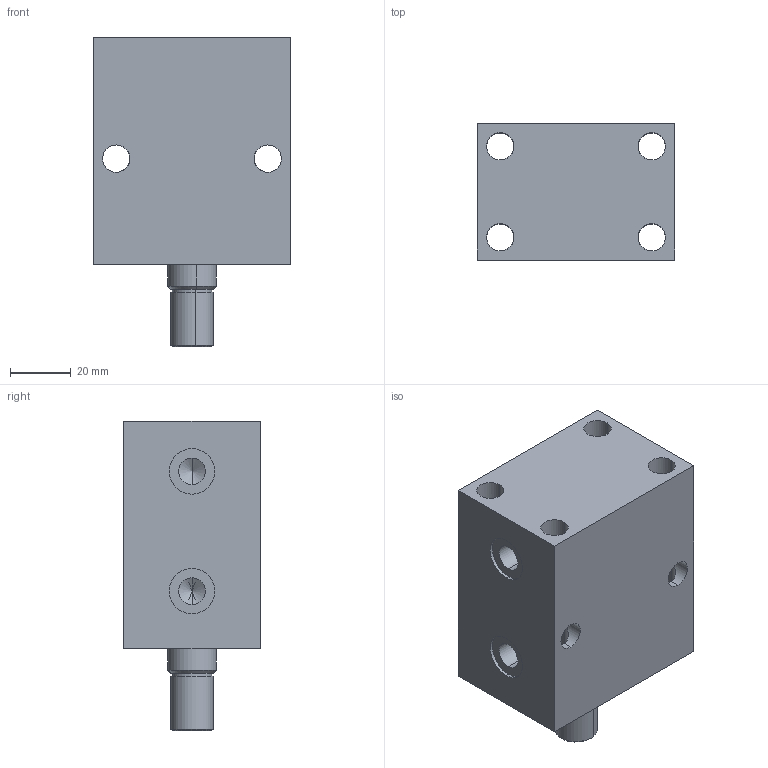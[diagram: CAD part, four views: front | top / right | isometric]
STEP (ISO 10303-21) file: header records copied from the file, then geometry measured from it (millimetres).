
FILE_DESCRIPTION (( 'STEP AP203' ), '1' );
FILE_NAME ('block cylinder B01C-125M.STEP', '2022-07-09T17:56:41', ( '' ), ( '' ), 'SwSTEP 2.0', 'SolidWorks 2017', '' );
FILE_SCHEMA (( 'CONFIG_CONTROL_DESIGN' ));
Length unit declared in the file: millimetre
Products named in the file (3): block cylinder B01C-125M; Body_125M; Piston_125M
Assembly tree (2 placements, depth 2):
  block cylinder B01C-125M
    Body_125M
    Piston_125M
Bounding box: 65 x 45 x 102 mm (x, y, z)
Volume: 207193.3 mm3; surface area: 39069.5 mm2
Topology: 2 solids, 2 shells, 348 faces, 949 edges, 620 vertices
Faces by surface type: plane 149, bspline 145, cylinder 46, cone 8
Entity records: 17180 total; most frequent: CARTESIAN_POINT 9111, ORIENTED_EDGE 1890, DIRECTION 1103, EDGE_CURVE 945, VERTEX_POINT 620, LINE 559, VECTOR 559, EDGE_LOOP 387
